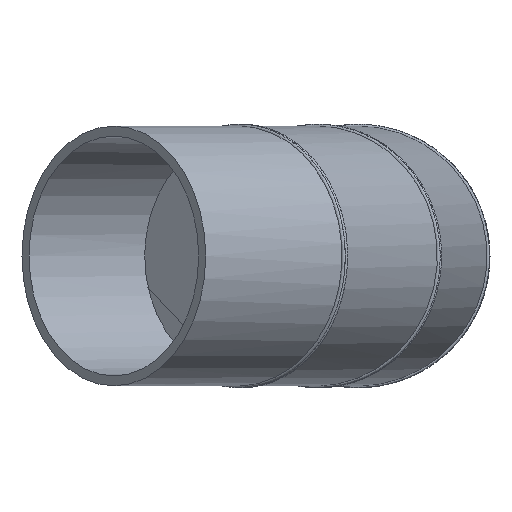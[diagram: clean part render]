
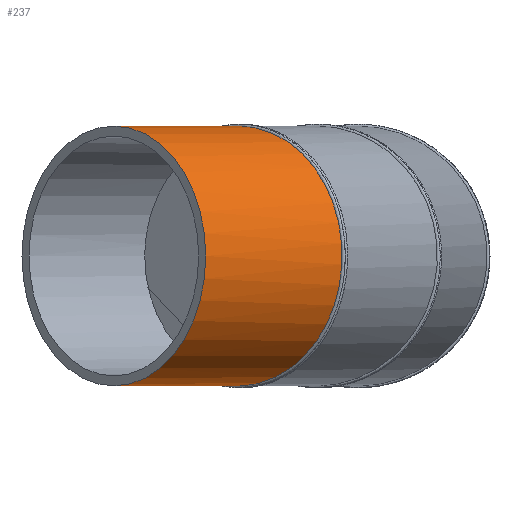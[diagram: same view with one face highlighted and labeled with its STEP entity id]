
A CAD part, front view. The second image highlights one B-rep face of the part: STEP entity #237.
In plain terms, the highlighted cylindrical face has radius 280 mm (diameter 560 mm), a full revolution.
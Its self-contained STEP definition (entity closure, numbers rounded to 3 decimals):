
#41=B_SPLINE_CURVE_WITH_KNOTS('',3,(#403,#404,#405,#406,#407,#408,#409,
#410,#411,#412,#413,#414,#415,#416,#417,#418,#419,#420,#421,#422,#423,#424,
#425,#426,#427,#428,#429,#430,#431,#432,#433,#434,#435,#436,#437,#438,#439,
#440,#441,#442,#443,#444,#445,#446,#447,#448,#449),.UNSPECIFIED.,.T.,.F.,
(1,1,1,1,1,1,1,1,1,1,1,1,1,1,1,1,1,1,1,1,1,1,1,1,1,1,1,1,1,1,1,1,1,1,1,
1,1,1,1,1,1,1,1,1,1,1,1,1,1,1,1),(-0.111,-0.055,
-0.028,0.,0.055,0.111,
0.138,0.166,0.221,0.276,
0.332,0.387,0.442,0.47,
0.497,0.525,0.553,0.608,
0.636,0.663,0.718,0.746,
0.774,0.829,0.884,0.939,
0.967,0.995,1.022,1.05,1.105,
1.133,1.161,1.216,1.271,1.326,
1.382,1.437,1.464,1.492,1.52,
1.547,1.603,1.63,1.658,1.713,
1.741,1.768,1.824,1.879,1.907),
 .UNSPECIFIED.);
#50=CYLINDRICAL_SURFACE('',#287,280.);
#82=ORIENTED_EDGE('',*,*,#134,.T.);
#83=ORIENTED_EDGE('',*,*,#127,.F.);
#127=EDGE_CURVE('',#153,#153,#173,.T.);
#134=EDGE_CURVE('',#160,#160,#41,.T.);
#153=VERTEX_POINT('',#388);
#160=VERTEX_POINT('',#450);
#173=CIRCLE('',#279,280.);
#179=EDGE_LOOP('',(#82));
#180=EDGE_LOOP('',(#83));
#207=FACE_BOUND('',#179,.T.);
#208=FACE_BOUND('',#180,.T.);
#237=ADVANCED_FACE('',(#207,#208),#50,.T.);
#279=AXIS2_PLACEMENT_3D('',#387,#317,#318);
#287=AXIS2_PLACEMENT_3D('',#402,#333,#334);
#317=DIRECTION('',(0.,1.,0.));
#318=DIRECTION('',(-1.,0.,0.));
#333=DIRECTION('',(0.,1.,0.));
#334=DIRECTION('',(-1.,0.,0.));
#387=CARTESIAN_POINT('',(1267.448,220.,0.));
#388=CARTESIAN_POINT('',(987.448,220.,0.));
#402=CARTESIAN_POINT('',(1267.448,-203.725,0.));
#403=CARTESIAN_POINT('',(988.358,-122.085,-27.633));
#404=CARTESIAN_POINT('',(986.538,-121.846,9.217));
#405=CARTESIAN_POINT('',(991.09,-122.444,55.21));
#406=CARTESIAN_POINT('',(1004.561,-124.214,99.414));
#407=CARTESIAN_POINT('',(1020.343,-126.288,132.636));
#408=CARTESIAN_POINT('',(1039.317,-128.782,164.16));
#409=CARTESIAN_POINT('',(1068.612,-132.634,199.695));
#410=CARTESIAN_POINT('',(1111.369,-138.256,234.627));
#411=CARTESIAN_POINT('',(1160.,-144.653,260.505));
#412=CARTESIAN_POINT('',(1212.713,-151.589,276.423));
#413=CARTESIAN_POINT('',(1258.304,-157.59,280.893));
#414=CARTESIAN_POINT('',(1294.823,-162.398,279.107));
#415=CARTESIAN_POINT('',(1321.932,-165.968,275.103));
#416=CARTESIAN_POINT('',(1348.528,-169.471,268.471));
#417=CARTESIAN_POINT('',(1382.995,-174.011,256.194));
#418=CARTESIAN_POINT('',(1415.42,-178.284,238.938));
#419=CARTESIAN_POINT('',(1444.892,-182.168,217.176));
#420=CARTESIAN_POINT('',(1472.14,-185.76,192.591));
#421=CARTESIAN_POINT('',(1495.579,-188.85,164.155));
#422=CARTESIAN_POINT('',(1514.536,-191.35,132.67));
#423=CARTESIAN_POINT('',(1530.339,-193.434,99.408));
#424=CARTESIAN_POINT('',(1543.801,-195.21,55.238));
#425=CARTESIAN_POINT('',(1549.269,-195.931,-0.002));
#426=CARTESIAN_POINT('',(1544.721,-195.331,-45.983));
#427=CARTESIAN_POINT('',(1535.728,-194.145,-81.731));
#428=CARTESIAN_POINT('',(1526.392,-192.914,-107.711));
#429=CARTESIAN_POINT('',(1514.555,-191.353,-132.633));
#430=CARTESIAN_POINT('',(1495.586,-188.851,-164.15));
#431=CARTESIAN_POINT('',(1472.143,-185.76,-192.585));
#432=CARTESIAN_POINT('',(1444.924,-182.173,-217.15));
#433=CARTESIAN_POINT('',(1415.426,-178.285,-238.937));
#434=CARTESIAN_POINT('',(1374.905,-172.945,-260.501));
#435=CARTESIAN_POINT('',(1322.199,-166.003,-276.42));
#436=CARTESIAN_POINT('',(1267.476,-158.797,-281.789));
#437=CARTESIAN_POINT('',(1212.711,-151.588,-276.423));
#438=CARTESIAN_POINT('',(1168.828,-145.814,-263.174));
#439=CARTESIAN_POINT('',(1135.697,-141.456,-247.574));
#440=CARTESIAN_POINT('',(1112.117,-138.354,-233.502));
#441=CARTESIAN_POINT('',(1090.009,-135.447,-217.18));
#442=CARTESIAN_POINT('',(1062.764,-131.865,-192.599));
#443=CARTESIAN_POINT('',(1039.321,-128.783,-164.162));
#444=CARTESIAN_POINT('',(1020.362,-126.291,-132.673));
#445=CARTESIAN_POINT('',(1004.56,-124.214,-99.418));
#446=CARTESIAN_POINT('',(993.79,-122.799,-64.072));
#447=CARTESIAN_POINT('',(988.358,-122.085,-27.633));
#448=CARTESIAN_POINT('',(986.538,-121.846,9.217));
#449=CARTESIAN_POINT('',(991.09,-122.444,55.21));
#450=CARTESIAN_POINT('',(987.448,-121.965,0.));
